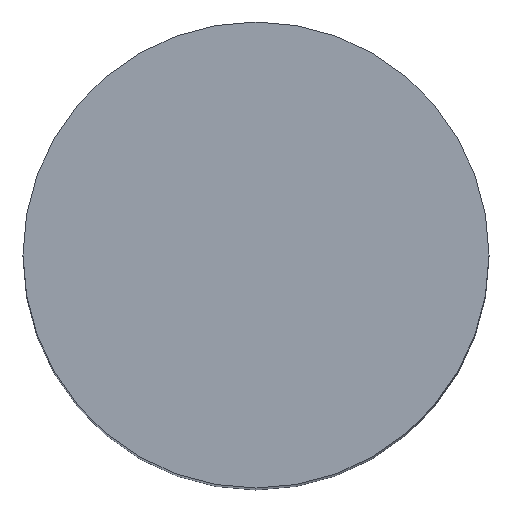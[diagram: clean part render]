
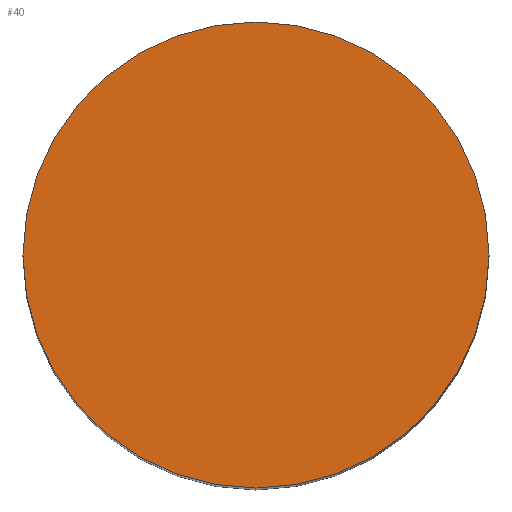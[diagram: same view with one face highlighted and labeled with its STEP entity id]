
A CAD part, top view. The second image highlights one B-rep face of the part: STEP entity #40.
In plain terms, the highlighted planar face has unit normal (0, 0, 1).
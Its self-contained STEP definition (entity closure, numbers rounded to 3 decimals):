
#15=PLANE('',#59);
#18=FACE_OUTER_BOUND('',#21,.T.);
#21=EDGE_LOOP('',(#36));
#25=CIRCLE('',#57,4.1);
#27=VERTEX_POINT('',#76);
#29=EDGE_CURVE('',#27,#27,#25,.T.);
#36=ORIENTED_EDGE('',*,*,#29,.T.);
#40=ADVANCED_FACE('',(#18),#15,.T.);
#57=AXIS2_PLACEMENT_3D('',#77,#65,#66);
#59=AXIS2_PLACEMENT_3D('',#81,#70,#71);
#65=DIRECTION('center_axis',(0.,0.,1.));
#66=DIRECTION('ref_axis',(1.,0.,0.));
#70=DIRECTION('center_axis',(0.,0.,1.));
#71=DIRECTION('ref_axis',(1.,0.,0.));
#76=CARTESIAN_POINT('',(-4.1,0.,20.));
#77=CARTESIAN_POINT('Origin',(0.,0.,20.));
#81=CARTESIAN_POINT('Origin',(0.,0.,20.));
